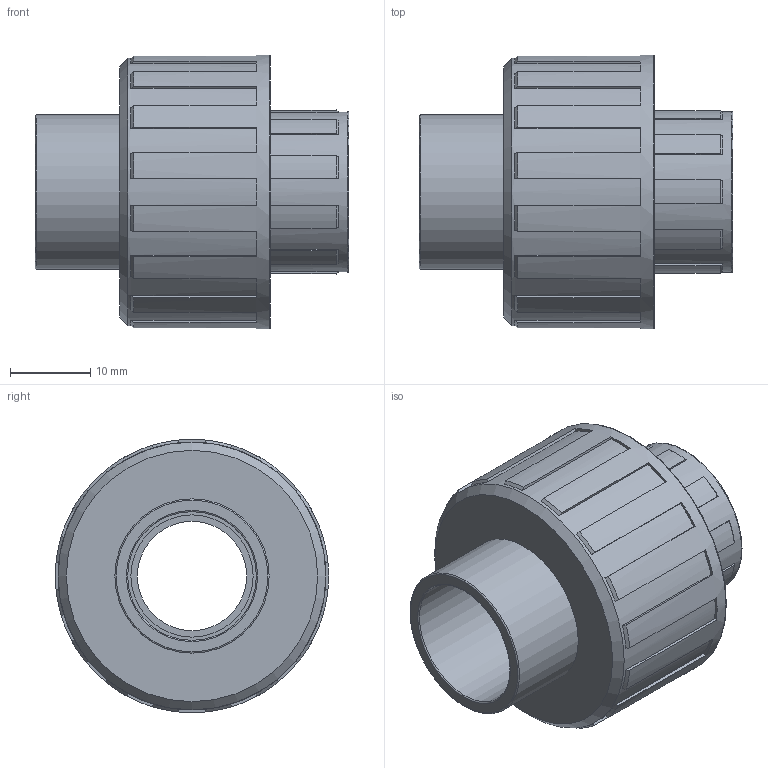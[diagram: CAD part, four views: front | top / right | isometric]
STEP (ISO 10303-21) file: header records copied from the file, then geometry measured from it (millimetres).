
FILE_DESCRIPTION(/* description */ ('PLASSON UNION+O RING THR-CEM 16-3/8'),/* implementation_level */ '2;1');
FILE_NAME(/* name */ 'C:\Dropbox\KIMPROJECTS-Inventor\99-16-3568-Processing\PVC Catalog 2017\050802\050802016003.ipt.stp',/* time_stamp */ '2017-12-07T15:58:13+02:00',/* author */ ('KIM'),/* organization */ (''),/* preprocessor_version */ 'ST-DEVELOPER v15.6',/* originating_system */ 'Autodesk Inventor 2015',/* authorisation */ '');
FILE_SCHEMA (('AUTOMOTIVE_DESIGN { 1 0 10303 214 3 1 1 }'));
Length unit declared in the file: millimetre
Products named in the file (1): 050802016003
Bounding box: 39 x 34 x 34 mm (x, y, z)
Volume: 15907.9 mm3; surface area: 6699.9 mm2
Topology: 1 solids, 1 shells, 125 faces, 348 edges, 230 vertices
Faces by surface type: plane 75, cone 27, cylinder 18, torus 5
Full cylindrical faces by diameter (mm): 13.6 x1, 14.95 x1, 15.2 x1, 16 x1, 19.2 x1, 20 x1, 33.32 x1, 34 x1
Entity records: 3968 total; most frequent: DIRECTION 706, CARTESIAN_POINT 684, ORIENTED_EDGE 662, EDGE_CURVE 331, AXIS2_PLACEMENT_3D 249, VERTEX_POINT 227, LINE 208, VECTOR 208
